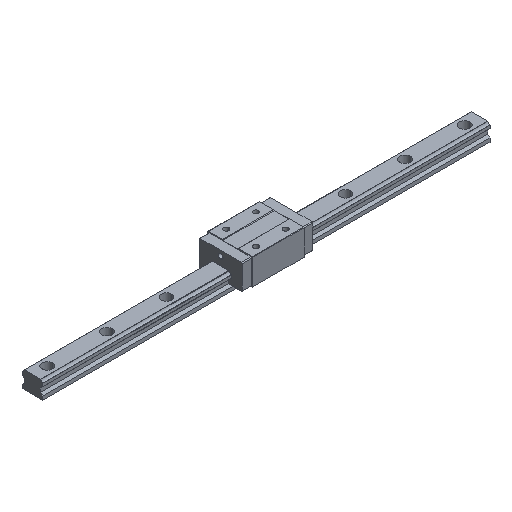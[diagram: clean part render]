
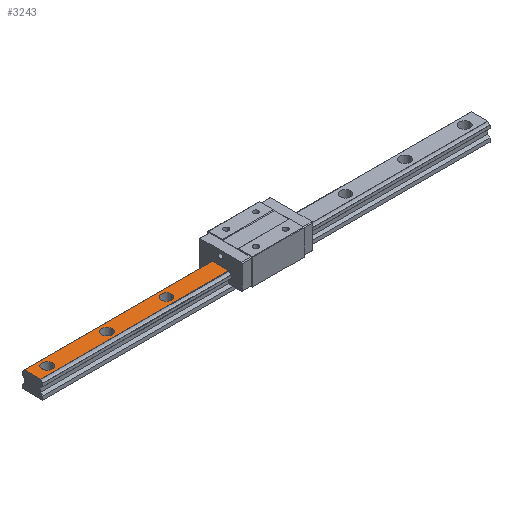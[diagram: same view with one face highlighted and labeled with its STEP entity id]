
A CAD part, isometric view. The second image highlights one B-rep face of the part: STEP entity #3243.
In plain terms, the highlighted planar face has unit normal (0, 0, 1).
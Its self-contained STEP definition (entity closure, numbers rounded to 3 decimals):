
#50 = VERTEX_POINT ( 'NONE', #4847 ) ;
#198 = DIRECTION ( 'NONE',  ( -1., 0., 0. ) ) ;
#267 = VERTEX_POINT ( 'NONE', #1560 ) ;
#311 = FACE_BOUND ( 'NONE', #2142, .T. ) ;
#336 = CARTESIAN_POINT ( 'NONE',  ( -200., 0., 23. ) ) ;
#382 = CARTESIAN_POINT ( 'NONE',  ( -47.35, 11.035, 23. ) ) ;
#439 = DIRECTION ( 'NONE',  ( 0., 0., -1. ) ) ;
#570 = AXIS2_PLACEMENT_3D ( 'NONE', #4108, #2011, #4938 ) ;
#662 = AXIS2_PLACEMENT_3D ( 'NONE', #2623, #1328, #920 ) ;
#669 = DIRECTION ( 'NONE',  ( -1., 0., 0. ) ) ;
#708 = CIRCLE ( 'NONE', #887, 7. ) ;
#726 = DIRECTION ( 'NONE',  ( 1., 0., 0. ) ) ;
#763 = LINE ( 'NONE', #2735, #4857 ) ;
#772 = VECTOR ( 'NONE', #4253, 1000. ) ;
#785 = VERTEX_POINT ( 'NONE', #3868 ) ;
#822 = EDGE_LOOP ( 'NONE', ( #2598, #2689 ) ) ;
#887 = AXIS2_PLACEMENT_3D ( 'NONE', #336, #439, #2517 ) ;
#920 = DIRECTION ( 'NONE',  ( -1., 0., 0. ) ) ;
#923 = CIRCLE ( 'NONE', #662, 7. ) ;
#989 = CARTESIAN_POINT ( 'NONE',  ( -193., 0., 23. ) ) ;
#1001 = EDGE_CURVE ( 'NONE', #1274, #1042, #2214, .T. ) ;
#1007 = EDGE_CURVE ( 'NONE', #50, #785, #2655, .T. ) ;
#1042 = VERTEX_POINT ( 'NONE', #4255 ) ;
#1123 = EDGE_CURVE ( 'NONE', #2311, #4973, #2385, .T. ) ;
#1189 = FACE_BOUND ( 'NONE', #822, .T. ) ;
#1274 = VERTEX_POINT ( 'NONE', #382 ) ;
#1290 = ORIENTED_EDGE ( 'NONE', *, *, #3395, .T. ) ;
#1310 = EDGE_CURVE ( 'NONE', #3570, #267, #3861, .T. ) ;
#1328 = DIRECTION ( 'NONE',  ( 0., 0., -1. ) ) ;
#1524 = ORIENTED_EDGE ( 'NONE', *, *, #1007, .T. ) ;
#1560 = CARTESIAN_POINT ( 'NONE',  ( -127., 0., 23. ) ) ;
#1570 = CARTESIAN_POINT ( 'NONE',  ( -300., -11.035, 23. ) ) ;
#1742 = ORIENTED_EDGE ( 'NONE', *, *, #3159, .T. ) ;
#1790 = EDGE_CURVE ( 'NONE', #267, #3570, #4124, .T. ) ;
#1815 = CARTESIAN_POINT ( 'NONE',  ( 300., 11.035, 23. ) ) ;
#2011 = DIRECTION ( 'NONE',  ( 0., 0., -1. ) ) ;
#2075 = EDGE_LOOP ( 'NONE', ( #5098, #5164, #4441, #2267 ) ) ;
#2142 = EDGE_LOOP ( 'NONE', ( #1524, #1742 ) ) ;
#2210 = CARTESIAN_POINT ( 'NONE',  ( -207., 0., 23. ) ) ;
#2214 = LINE ( 'NONE', #1815, #5317 ) ;
#2224 = AXIS2_PLACEMENT_3D ( 'NONE', #4814, #2399, #4403 ) ;
#2239 = EDGE_CURVE ( 'NONE', #1042, #2311, #4654, .T. ) ;
#2267 = ORIENTED_EDGE ( 'NONE', *, *, #2239, .T. ) ;
#2311 = VERTEX_POINT ( 'NONE', #1570 ) ;
#2385 = LINE ( 'NONE', #4823, #3784 ) ;
#2399 = DIRECTION ( 'NONE',  ( 0., 0., -1. ) ) ;
#2427 = DIRECTION ( 'NONE',  ( 0., 0., -1. ) ) ;
#2473 = PLANE ( 'NONE',  #570 ) ;
#2482 = CIRCLE ( 'NONE', #4704, 7. ) ;
#2517 = DIRECTION ( 'NONE',  ( -1., 0., 0. ) ) ;
#2578 = AXIS2_PLACEMENT_3D ( 'NONE', #4922, #2427, #5299 ) ;
#2598 = ORIENTED_EDGE ( 'NONE', *, *, #1310, .T. ) ;
#2618 = CARTESIAN_POINT ( 'NONE',  ( -300., 0., 23. ) ) ;
#2623 = CARTESIAN_POINT ( 'NONE',  ( -200., 0., 23. ) ) ;
#2655 = CIRCLE ( 'NONE', #3176, 7. ) ;
#2689 = ORIENTED_EDGE ( 'NONE', *, *, #1790, .T. ) ;
#2735 = CARTESIAN_POINT ( 'NONE',  ( -47.35, -11.035, 23. ) ) ;
#3145 = DIRECTION ( 'NONE',  ( 0., -1., 0. ) ) ;
#3159 = EDGE_CURVE ( 'NONE', #785, #50, #2482, .T. ) ;
#3176 = AXIS2_PLACEMENT_3D ( 'NONE', #3939, #4284, #669 ) ;
#3180 = CARTESIAN_POINT ( 'NONE',  ( -280., 0., 23. ) ) ;
#3220 = CARTESIAN_POINT ( 'NONE',  ( -113., 0., 23. ) ) ;
#3243 = ADVANCED_FACE ( 'NONE', ( #311, #5290, #1189, #3640 ), #2473, .F. ) ;
#3395 = EDGE_CURVE ( 'NONE', #3847, #5148, #923, .T. ) ;
#3570 = VERTEX_POINT ( 'NONE', #3220 ) ;
#3640 = FACE_OUTER_BOUND ( 'NONE', #2075, .T. ) ;
#3784 = VECTOR ( 'NONE', #726, 1000. ) ;
#3795 = EDGE_CURVE ( 'NONE', #5148, #3847, #708, .T. ) ;
#3847 = VERTEX_POINT ( 'NONE', #2210 ) ;
#3861 = CIRCLE ( 'NONE', #2224, 7. ) ;
#3868 = CARTESIAN_POINT ( 'NONE',  ( -287., 0., 23. ) ) ;
#3939 = CARTESIAN_POINT ( 'NONE',  ( -280., 0., 23. ) ) ;
#4035 = DIRECTION ( 'NONE',  ( 0., 0., -1. ) ) ;
#4108 = CARTESIAN_POINT ( 'NONE',  ( 300., 0., 23. ) ) ;
#4124 = CIRCLE ( 'NONE', #2578, 7. ) ;
#4253 = DIRECTION ( 'NONE',  ( 0., -1., 0. ) ) ;
#4255 = CARTESIAN_POINT ( 'NONE',  ( -300., 11.035, 23. ) ) ;
#4284 = DIRECTION ( 'NONE',  ( 0., 0., -1. ) ) ;
#4403 = DIRECTION ( 'NONE',  ( -1., 0., 0. ) ) ;
#4441 = ORIENTED_EDGE ( 'NONE', *, *, #1001, .T. ) ;
#4479 = ORIENTED_EDGE ( 'NONE', *, *, #3795, .T. ) ;
#4490 = EDGE_CURVE ( 'NONE', #1274, #4973, #763, .T. ) ;
#4654 = LINE ( 'NONE', #2618, #772 ) ;
#4704 = AXIS2_PLACEMENT_3D ( 'NONE', #3180, #4035, #4810 ) ;
#4810 = DIRECTION ( 'NONE',  ( -1., 0., 0. ) ) ;
#4814 = CARTESIAN_POINT ( 'NONE',  ( -120., 0., 23. ) ) ;
#4823 = CARTESIAN_POINT ( 'NONE',  ( 300., -11.035, 23. ) ) ;
#4847 = CARTESIAN_POINT ( 'NONE',  ( -273., 0., 23. ) ) ;
#4857 = VECTOR ( 'NONE', #3145, 1000. ) ;
#4909 = CARTESIAN_POINT ( 'NONE',  ( -47.35, -11.035, 23. ) ) ;
#4922 = CARTESIAN_POINT ( 'NONE',  ( -120., 0., 23. ) ) ;
#4938 = DIRECTION ( 'NONE',  ( 0., -1., 0. ) ) ;
#4973 = VERTEX_POINT ( 'NONE', #4909 ) ;
#4998 = EDGE_LOOP ( 'NONE', ( #4479, #1290 ) ) ;
#5098 = ORIENTED_EDGE ( 'NONE', *, *, #1123, .T. ) ;
#5148 = VERTEX_POINT ( 'NONE', #989 ) ;
#5164 = ORIENTED_EDGE ( 'NONE', *, *, #4490, .F. ) ;
#5290 = FACE_BOUND ( 'NONE', #4998, .T. ) ;
#5299 = DIRECTION ( 'NONE',  ( -1., 0., 0. ) ) ;
#5317 = VECTOR ( 'NONE', #198, 1000. ) ;
